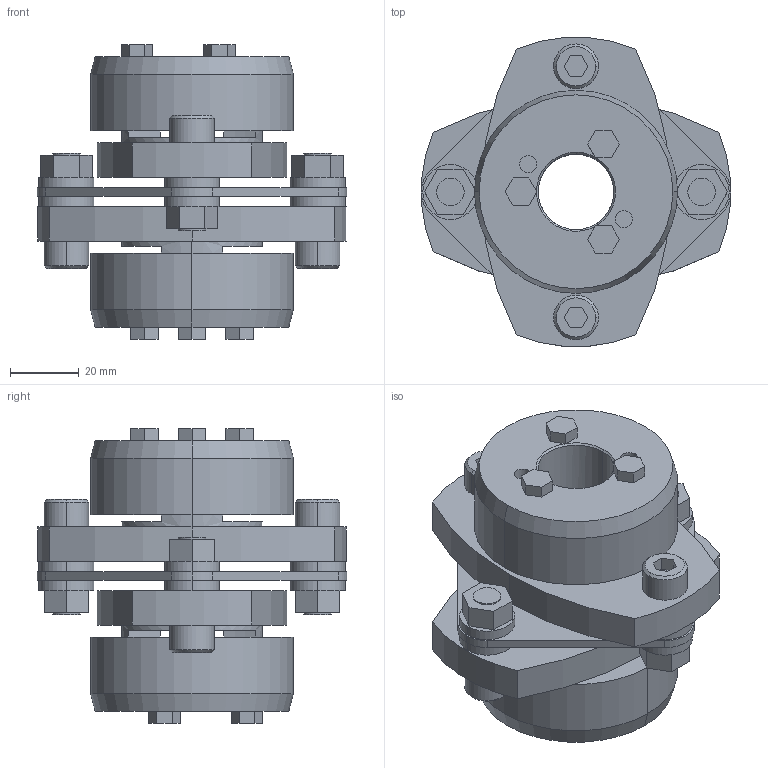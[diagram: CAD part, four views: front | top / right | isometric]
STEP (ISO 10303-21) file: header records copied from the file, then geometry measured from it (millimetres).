
FILE_DESCRIPTION((''),'2;1');
FILE_NAME('LCS-90T7-22×22.stp','2011-09-09T09:52:48',(''),(''),'AutoCAD STEP 2000i','AutoCAD 2000i',', , ');
FILE_SCHEMA(('CONFIG_CONTROL_DESIGN'));
Length unit declared in the file: millimetre
Products named in the file (7): LCS-90T7-19×19; 忣兜1; LC90T7-T019-1; LC90T7-T019; LC90-B019-1; LC90-B019; LCS90-ITA
Assembly tree (6 placements, depth 2):
  LCS-90T7-19×19
    忣兜1
    LC90T7-T019-1
    LC90T7-T019
    LC90-B019-1
    LC90-B019
    LCS90-ITA
Bounding box: 90 x 89.94 x 85.5 mm (x, y, z)
Volume: 202070.8 mm3; surface area: 52483.6 mm2
Topology: 1 solids, 1 shells, 238 faces, 592 edges, 384 vertices
Faces by surface type: plane 138, cylinder 80, cone 20
Entity records: 7303 total; most frequent: DIRECTION 1290, CARTESIAN_POINT 1221, ORIENTED_EDGE 1184, EDGE_CURVE 592, AXIS2_PLACEMENT_3D 453, VERTEX_POINT 384, VECTOR 384, LINE 384
